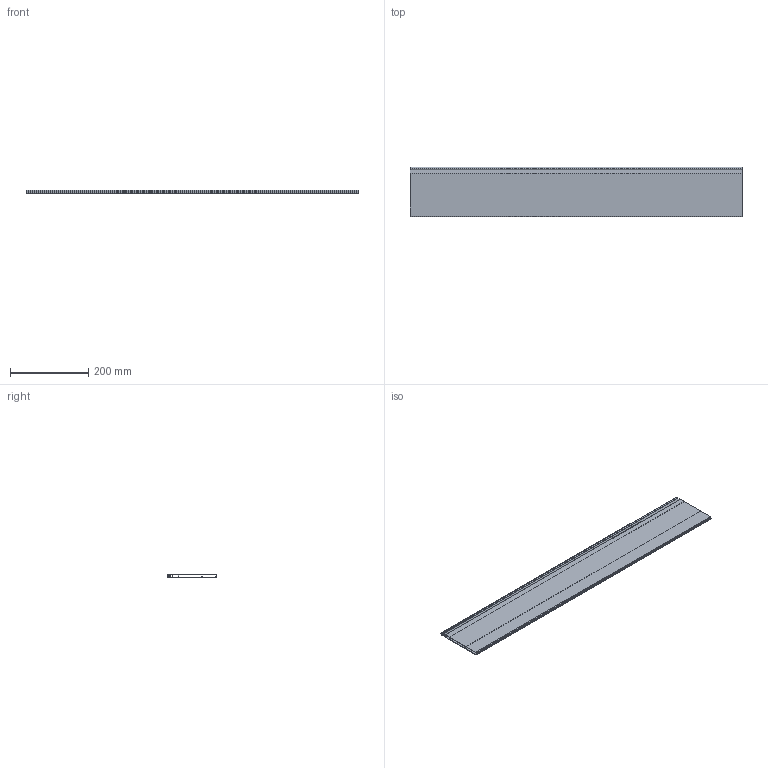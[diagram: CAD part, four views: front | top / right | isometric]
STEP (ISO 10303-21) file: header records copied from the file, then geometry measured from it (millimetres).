
FILE_DESCRIPTION (( 'STEP AP214' ), '1' );
FILE_NAME ('_Magic Optima Unterteilungsprofil DWD XP Agantis_Nova Pro KAB 1000.step', '2010-08-17T12:26:48', ( 'grass' ), ( '' ), 'SwSTEP 2.0', 'SolidWorks 2010', '' );
FILE_SCHEMA (( 'AUTOMOTIVE_DESIGN' ));
Length unit declared in the file: millimetre
Products named in the file (1): _Magic Optima Unterteilungsprofil DWD XP Agantis_Nova Pro  KAB 1000
Bounding box: 850 x 127.7 x 8.1 mm (x, y, z)
Volume: 297944.9 mm3; surface area: 461569.9 mm2
Topology: 1 solids, 1 shells, 39 faces, 111 edges, 74 vertices
Faces by surface type: plane 22, cylinder 17
Entity records: 1325 total; most frequent: CARTESIAN_POINT 225, DIRECTION 225, ORIENTED_EDGE 222, EDGE_CURVE 111, LINE 77, VECTOR 77, AXIS2_PLACEMENT_3D 74, VERTEX_POINT 74
